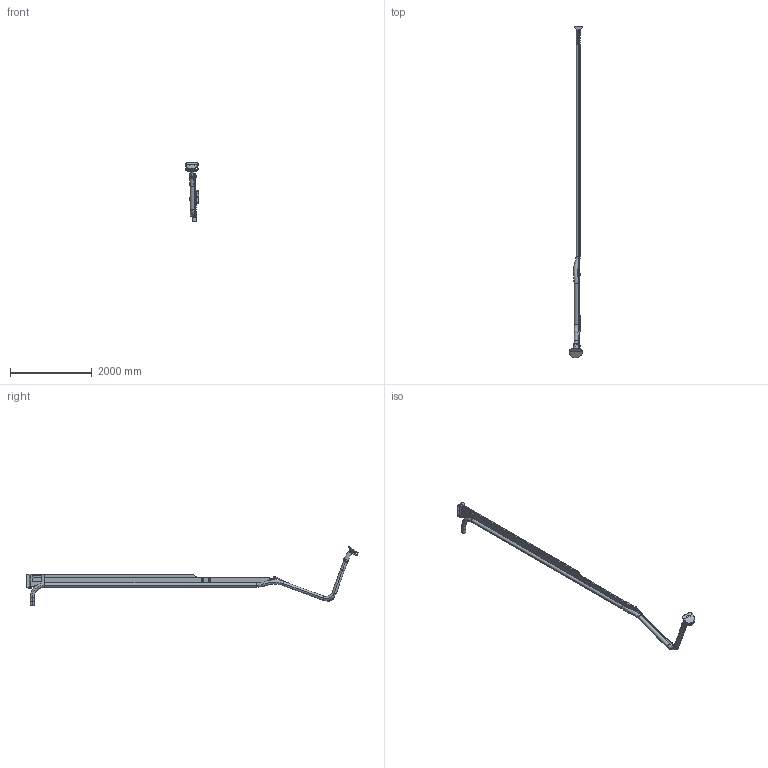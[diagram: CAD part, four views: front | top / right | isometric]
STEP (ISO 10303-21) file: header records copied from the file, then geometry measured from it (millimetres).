
FILE_DESCRIPTION((''),'2;1');
FILE_NAME('PR9000-100','2018-10-01T',('Gustav Stenberg'),(''),'CREO PARAMETRIC BY PTC INC, 2016130','CREO PARAMETRIC BY PTC INC, 2016130','');
FILE_SCHEMA(('AUTOMOTIVE_DESIGN { 1 0 10303 214 1 1 1 1 }'));
Length unit declared in the file: millimetre
Products named in the file (61): 100-6338-01; 100-6325-03; 100-6325-05; 100-6300-03; 100-6338; 100-6326-01; 100-6309-1; 100-6309-3; 100-6326; 100-6334-01; 100-6336-04; 100-6336-02; 100-6325-01; 100-6336-01; 100-6333-01; 100-6333-02; 100-6308-3; 100184; 100-6333; 100068; 102683; 100-5506_L_LIGHT; 100-5506_R_LIGHT; 100-5506; 100-5404-L_LIGHT; 100-5404-R_LIGHT; 100-5404; 100-5914; 100-5913; 100-5915; 135085; 102679; 100-5512-L_LIGHT; 100-512-R_LIGHT; 100-5512; 122219; 102715; 100-5911; 100-5518; 100-6305-2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
Assembly tree (69 placements, depth 5):
  PR9000-100
    100068
      100-6338
        100-6338-01
        100-6325-03  x2
        100-6325-05
        100-6300-03
      100-6326
        100-6326-01  x2
        100-6309-1
        100-6309-3
      100-6336-01
        100-6334-01
        100-6336-04  x2
        100-6336-02
        100-6325-03
        100-6325-05
        100-6325-01
      100-6333
        100184
          100-6333-01
          100-6333-02
          100-6308-3
    134112
      135085
        102683
        100-5506
          100-5506_L_LIGHT
          100-5506_R_LIGHT
        100-5404
          100-5404-L_LIGHT
          100-5404-R_LIGHT
        100-5915  x2
          100-5914
          100-5913
      122219
        102679
        100-5512
          100-5512-L_LIGHT
          100-512-R_LIGHT
      100-5518
        102715
        100-5911
      100-6305
        100-6305-2
        100-6305-1
        100-5911
    100-5721_LIGHT
    100-6341-100
      100-5821_LIGHT
      100-5862A_LIGHT
      100-5865A_LIGHT
      100-5826-02
      126054_AF0
    130368
      135584
      STAB_K4-D4
    102118-REF
    130371
      135588
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Bounding box: 339.37 x 8122.63 x 1446.76 mm (x, y, z)
Volume: 51788604.6 mm3; surface area: 10268308.6 mm2
Topology: 54 solids, 55 shells, 1292 faces, 3111 edges, 1924 vertices
Faces by surface type: plane 486, cylinder 431, cone 158, bspline 102, torus 85, sphere 26, extrusion 4
Entity records: 59696 total; most frequent: CARTESIAN_POINT 13883, DIRECTION 5505, ORIENTED_EDGE 5040, PROPERTY_DEFINITION 2602, REPRESENTATION 2561, PROPERTY_DEFINITION_REPRESENTATION 2561, EDGE_CURVE 2520, AXIS2_PLACEMENT_3D 2172
